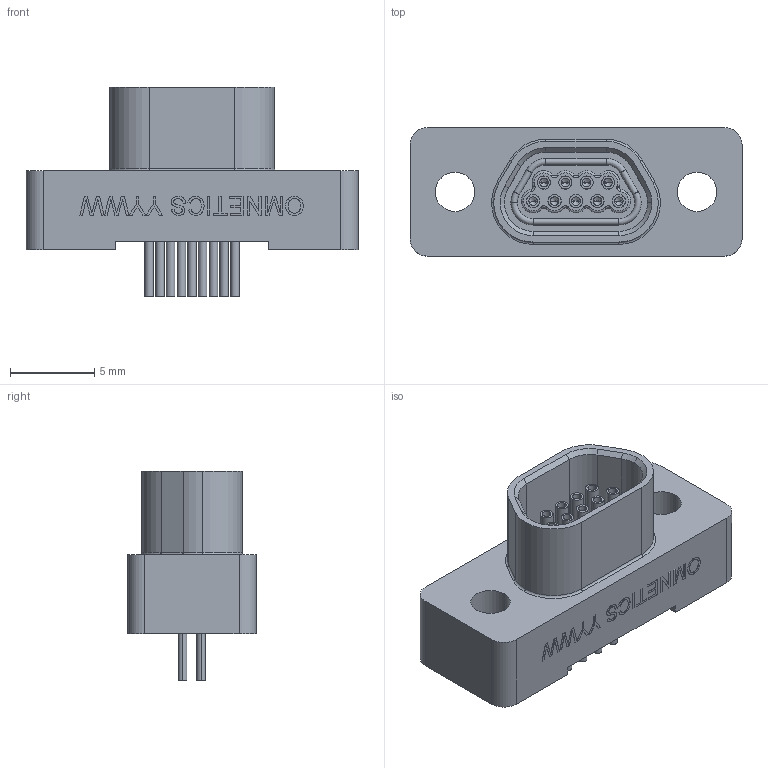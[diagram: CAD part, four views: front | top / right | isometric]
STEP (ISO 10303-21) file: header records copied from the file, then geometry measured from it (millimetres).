
FILE_DESCRIPTION (( 'STEP AP214' ), '1' );
FILE_NAME ('A99046-009 REV B.STEP', '2012-12-19T20:53:34', ( '' ), ( '' ), 'SwSTEP 2.0', 'SolidWorks 2012', '' );
FILE_SCHEMA (( 'AUTOMOTIVE_DESIGN' ));
Length unit declared in the file: inch
Products named in the file (1): A99046-009 REV A
Bounding box: 19.68 x 7.63 x 12.45 mm (x, y, z)
Volume: 666 mm3; surface area: 1201.1 mm2
Topology: 1 solids, 4 shells, 515 faces, 1270 edges, 802 vertices
Faces by surface type: plane 217, cylinder 172, bspline 54, torus 49, cone 23
Entity records: 17888 total; most frequent: CARTESIAN_POINT 5752, DIRECTION 2504, ORIENTED_EDGE 2492, EDGE_CURVE 1246, AXIS2_PLACEMENT_3D 906, VERTEX_POINT 802, LINE 692, VECTOR 692
